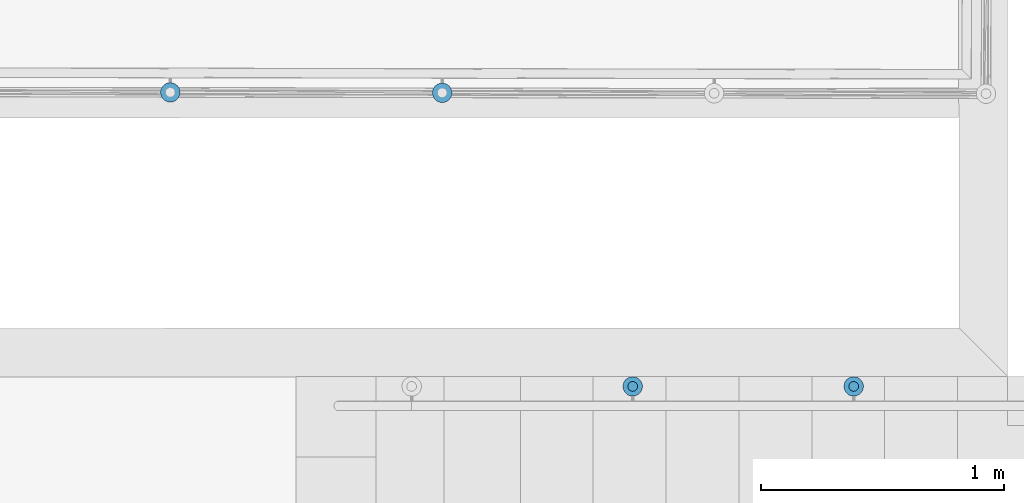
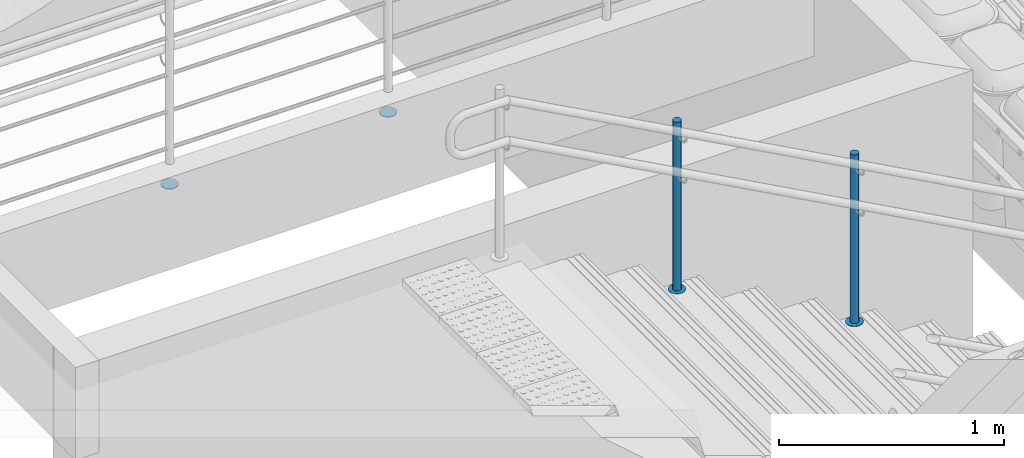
# One storey, part 108 of 237: 6 building element parts, 2 elements without a shape of their own.
"""IFC2X3 building model written with IfcOpenShell, lengths in millimetres."""

from ifc_helpers import new_model, entity, si_unit, converted_unit, derived_unit, money_unit, direction, frame, origin_with_axes, place, context, subcontext, project, spatial, faceted_brep, material, type_object, element, aggregate, save


model = new_model("IFC2X3")

# Units and contexts
model_context = context("Model", 3, precision=0.01, world=origin_with_axes(), true_north=direction((0.0, 1.0)))
body_context = subcontext(model_context, "Body", "Model", "MODEL_VIEW")
ifc_project = project(units=[si_unit("LENGTHUNIT", "METRE", prefix="MILLI"), si_unit("AREAUNIT", "SQUARE_METRE"), si_unit("VOLUMEUNIT", "CUBIC_METRE"), converted_unit("PLANEANGLEUNIT", "DEGREE", entity("IfcPlaneAngleMeasure", 0.0174532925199), si_unit("PLANEANGLEUNIT", "RADIAN"), dimensions=[0, 0, 0, 0, 0, 0, 0]), money_unit("USD"), converted_unit("TIMEUNIT", "Year", entity("IfcTimeMeasure", 31556926.0), si_unit("TIMEUNIT", "SECOND"), dimensions=[0, 0, 1, 0, 0, 0, 0]), si_unit("MASSUNIT", "GRAM", prefix="KILO"), si_unit("THERMODYNAMICTEMPERATUREUNIT", "DEGREE_CELSIUS"), si_unit("LUMINOUSINTENSITYUNIT", "LUMEN"), si_unit("ENERGYUNIT", "JOULE", prefix="MEGA"), derived_unit("THERMALCONDUCTANCEUNIT", [(si_unit("POWERUNIT", "WATT"), 1), (si_unit("LENGTHUNIT", "METRE"), -1), (si_unit("THERMODYNAMICTEMPERATUREUNIT", "KELVIN"), -1)]), derived_unit("SPECIFICHEATCAPACITYUNIT", [(si_unit("ENERGYUNIT", "JOULE"), 1), (si_unit("MASSUNIT", "GRAM", prefix="KILO"), -1), (si_unit("THERMODYNAMICTEMPERATUREUNIT", "KELVIN"), -1)]), derived_unit("MASSDENSITYUNIT", [(si_unit("MASSUNIT", "GRAM", prefix="KILO"), 1), (si_unit("VOLUMEUNIT", "CUBIC_METRE"), -1)])], contexts=[model_context])

# Site, building, storey
site_placement = place(None, origin_with_axes())
site = spatial("IfcSite", under=ifc_project, at=site_placement, Name="Local", CompositionType="ELEMENT")
building_placement = place(site_placement, origin_with_axes())
building = spatial("IfcBuilding", under=site, at=building_placement, Name="Construção", CompositionType="ELEMENT")
storey_placement = place(building_placement, origin_with_axes())
storey = spatial("IfcBuildingStorey", under=building, at=storey_placement, Name="Pavimento Térreo", CompositionType="ELEMENT", Elevation=0.0)

# Railing, building element parts
railing_type = type_object("IfcRailingType", Name="Tipo de Guarda-Corpo", PredefinedType="NOTDEFINED")
railing_1_placement = place(storey_placement, frame((70326.6870103, 28675.2458388, -1357.10819655), z_axis=(0.0, 0.0, 1.0), x_axis=(1.0, 0.0, 0.0)))
railing_1 = element("IfcRailing", 1, at=railing_1_placement, inside=storey, type_object=railing_type, Name="Guarda-Corpo - 004", PredefinedType="NOTDEFINED")
ifc_material_1 = material(Name="Alumínio")
building_element_part_1_placement = place(railing_1_placement, origin_with_axes())
building_element_part_1 = element("IfcBuildingElementPart", 2, at=building_element_part_1_placement, material=ifc_material_1, Name="Alumínio", context=body_context, shape_type="Brep", body=[
    faceted_brep([(-8065.08357574, -1847.38818847, 0.0), (-8065.68017434, -1840.44129993, 0.0), (-8065.68017434, -1840.44129993, 5.0), (-8065.08357574, -1847.38818847, 5.0), (-8065.70235535, -1854.33313643, 0.0), (-8067.51771186, -1861.06512508, 0.0), (-8070.47448659, -1867.37960633, 0.0), (-8074.48283943, -1873.08471789, 0.0), (-8079.42097861, -1878.00711282, 0.0), (-8085.13886126, -1881.99722664, 0.0), (-8091.46275243, -1884.93382176, 0.0), (-8098.20050387, -1886.72767122, 0.0), (-8105.14739241, -1887.32426982, 0.0), (-8112.09234037, -1886.70549022, 0.0), (-8118.82432901, -1884.8901337, 0.0), (-8125.13881027, -1881.93335898, 0.0), (-8130.84392183, -1877.92500614, 0.0), (-8135.76631676, -1872.98686696, 0.0), (-8139.75643058, -1867.2689843, 0.0), (-8142.6930257, -1860.94509314, 0.0), (-8144.48687516, -1854.2073417, 0.0), (-8145.08347376, -1847.26045315, 0.0), (-8144.46469416, -1840.31550519, 0.0), (-8142.64933764, -1833.58351655, 0.0), (-8139.69256292, -1827.26903529, 0.0), (-8135.68421008, -1821.56392373, 0.0), (-8130.7460709, -1816.64152881, 0.0), (-8125.02818824, -1812.65141499, 0.0), (-8118.70429708, -1809.71481987, 0.0), (-8111.96654564, -1807.9209704, 0.0), (-8105.01965709, -1807.3243718, 0.0), (-8098.07470913, -1807.94315141, 0.0), (-8091.34272049, -1809.75850792, 0.0), (-8085.02823923, -1812.71528265, 0.0), (-8079.32312767, -1816.72363549, 0.0), (-8074.40073275, -1821.66177467, 0.0), (-8070.41061893, -1827.37965732, 0.0), (-8067.47402381, -1833.70354849, 0.0), (-8067.47402381, -1833.70354849, 5.0), (-8070.41061893, -1827.37965732, 5.0), (-8074.40073275, -1821.66177467, 5.0), (-8079.32312767, -1816.72363549, 5.0), (-8085.02823923, -1812.71528265, 5.0), (-8091.34272049, -1809.75850792, 5.0), (-8098.07470913, -1807.94315141, 5.0), (-8105.01965709, -1807.3243718, 5.0), (-8111.96654564, -1807.9209704, 5.0), (-8118.70429708, -1809.71481987, 5.0), (-8125.02818824, -1812.65141499, 5.0), (-8130.7460709, -1816.64152881, 5.0), (-8135.68421008, -1821.56392373, 5.0), (-8139.69256292, -1827.26903529, 5.0), (-8142.64933764, -1833.58351655, 5.0), (-8144.46469416, -1840.31550519, 5.0), (-8145.08347376, -1847.26045315, 5.0), (-8144.48687516, -1854.2073417, 5.0), (-8142.6930257, -1860.94509314, 5.0), (-8139.75643058, -1867.2689843, 5.0), (-8135.76631676, -1872.98686696, 5.0), (-8130.84392183, -1877.92500614, 5.0), (-8125.13881027, -1881.93335898, 5.0), (-8118.82432901, -1884.8901337, 5.0), (-8112.09234037, -1886.70549022, 5.0), (-8105.14739241, -1887.32426982, 5.0), (-8098.20050387, -1886.72767122, 5.0), (-8091.46275243, -1884.93382176, 5.0), (-8085.13886126, -1881.99722664, 5.0), (-8079.42097861, -1878.00711282, 5.0), (-8074.48283943, -1873.08471789, 5.0), (-8070.47448659, -1867.37960633, 5.0), (-8067.51771186, -1861.06512508, 5.0), (-8065.70235535, -1854.33313643, 5.0)], [[[0, 1, 2, 3]], [[0, 4, 5, 6, 7, 8, 9, 10, 11, 12, 13, 14, 15, 16, 17, 18, 19, 20, 21, 22, 23, 24, 25, 26, 27, 28, 29, 30, 31, 32, 33, 34, 35, 36, 37, 1]], [[1, 37, 38, 2]], [[3, 2, 38, 39, 40, 41, 42, 43, 44, 45, 46, 47, 48, 49, 50, 51, 52, 53, 54, 55, 56, 57, 58, 59, 60, 61, 62, 63, 64, 65, 66, 67, 68, 69, 70, 71]], [[4, 0, 3, 71]], [[5, 4, 71, 70]], [[6, 5, 70, 69]], [[7, 6, 69, 68]], [[8, 7, 68, 67]], [[9, 8, 67, 66]], [[10, 9, 66, 65]], [[11, 10, 65, 64]], [[12, 11, 64, 63]], [[13, 12, 63, 62]], [[14, 13, 62, 61]], [[15, 14, 61, 60]], [[16, 15, 60, 59]], [[17, 16, 59, 58]], [[18, 17, 58, 57]], [[19, 18, 57, 56]], [[20, 19, 56, 55]], [[21, 20, 55, 54]], [[22, 21, 54, 53]], [[23, 22, 53, 52]], [[24, 23, 52, 51]], [[25, 24, 51, 50]], [[26, 25, 50, 49]], [[27, 26, 49, 48]], [[28, 27, 48, 47]], [[29, 28, 47, 46]], [[30, 29, 46, 45]], [[31, 30, 45, 44]], [[32, 31, 44, 43]], [[33, 32, 43, 42]], [[34, 33, 42, 41]], [[35, 34, 41, 40]], [[36, 35, 40, 39]], [[37, 36, 39, 38]]]),
])
building_element_part_2_placement = place(railing_1_placement, origin_with_axes())
building_element_part_2 = element("IfcBuildingElementPart", 3, at=building_element_part_2_placement, material=ifc_material_1, Name="Alumínio", context=body_context, shape_type="Brep", body=[
    faceted_brep([(-6945.83674292, -1849.17528265, 0.0), (-6946.43334153, -1842.2283941, 0.0), (-6946.43334153, -1842.2283941, 5.0), (-6945.83674292, -1849.17528265, 5.0), (-6946.45552253, -1856.12023061, 0.0), (-6948.27087904, -1862.85221925, 0.0), (-6951.22765377, -1869.16670051, 0.0), (-6955.23600661, -1874.87181207, 0.0), (-6960.17414579, -1879.794207, 0.0), (-6965.89202845, -1883.78432081, 0.0), (-6972.21591961, -1886.72091593, 0.0), (-6978.95367105, -1888.5147654, 0.0), (-6985.90055959, -1889.111364, 0.0), (-6992.84550755, -1888.49258439, 0.0), (-6999.5774962, -1886.67722788, 0.0), (-7005.89197746, -1883.72045315, 0.0), (-7011.59708901, -1879.71210032, 0.0), (-7016.51948394, -1874.77396114, 0.0), (-7020.50959776, -1869.05607848, 0.0), (-7023.44619288, -1862.73218732, 0.0), (-7025.24004234, -1855.99443588, 0.0), (-7025.83664095, -1849.04754733, 0.0), (-7025.21786134, -1842.10259937, 0.0), (-7023.40250483, -1835.37061073, 0.0), (-7020.4457301, -1829.05612947, 0.0), (-7016.43737726, -1823.35101791, 0.0), (-7011.49923808, -1818.42862298, 0.0), (-7005.78135542, -1814.43850917, 0.0), (-6999.45746426, -1811.50191405, 0.0), (-6992.71971282, -1809.70806458, 0.0), (-6985.77282428, -1809.11146598, 0.0), (-6978.82787632, -1809.73024559, 0.0), (-6972.09588767, -1811.5456021, 0.0), (-6965.78140641, -1814.50237683, 0.0), (-6960.07629486, -1818.51072967, 0.0), (-6955.15389993, -1823.44886884, 0.0), (-6951.16378611, -1829.1667515, 0.0), (-6948.22719099, -1835.49064267, 0.0), (-6948.22719099, -1835.49064267, 5.0), (-6951.16378611, -1829.1667515, 5.0), (-6955.15389993, -1823.44886884, 5.0), (-6960.07629486, -1818.51072967, 5.0), (-6965.78140641, -1814.50237683, 5.0), (-6972.09588767, -1811.5456021, 5.0), (-6978.82787632, -1809.73024559, 5.0), (-6985.77282428, -1809.11146598, 5.0), (-6992.71971282, -1809.70806458, 5.0), (-6999.45746426, -1811.50191405, 5.0), (-7005.78135542, -1814.43850917, 5.0), (-7011.49923808, -1818.42862298, 5.0), (-7016.43737726, -1823.35101791, 5.0), (-7020.4457301, -1829.05612947, 5.0), (-7023.40250483, -1835.37061073, 5.0), (-7025.21786134, -1842.10259937, 5.0), (-7025.83664095, -1849.04754733, 5.0), (-7025.24004234, -1855.99443588, 5.0), (-7023.44619288, -1862.73218732, 5.0), (-7020.50959776, -1869.05607848, 5.0), (-7016.51948394, -1874.77396114, 5.0), (-7011.59708901, -1879.71210032, 5.0), (-7005.89197746, -1883.72045315, 5.0), (-6999.5774962, -1886.67722788, 5.0), (-6992.84550755, -1888.49258439, 5.0), (-6985.90055959, -1889.111364, 5.0), (-6978.95367105, -1888.5147654, 5.0), (-6972.21591961, -1886.72091593, 5.0), (-6965.89202845, -1883.78432081, 5.0), (-6960.17414579, -1879.794207, 5.0), (-6955.23600661, -1874.87181207, 5.0), (-6951.22765377, -1869.16670051, 5.0), (-6948.27087904, -1862.85221925, 5.0), (-6946.45552253, -1856.12023061, 5.0)], [[[0, 1, 2, 3]], [[0, 4, 5, 6, 7, 8, 9, 10, 11, 12, 13, 14, 15, 16, 17, 18, 19, 20, 21, 22, 23, 24, 25, 26, 27, 28, 29, 30, 31, 32, 33, 34, 35, 36, 37, 1]], [[1, 37, 38, 2]], [[3, 2, 38, 39, 40, 41, 42, 43, 44, 45, 46, 47, 48, 49, 50, 51, 52, 53, 54, 55, 56, 57, 58, 59, 60, 61, 62, 63, 64, 65, 66, 67, 68, 69, 70, 71]], [[4, 0, 3, 71]], [[5, 4, 71, 70]], [[6, 5, 70, 69]], [[7, 6, 69, 68]], [[8, 7, 68, 67]], [[9, 8, 67, 66]], [[10, 9, 66, 65]], [[11, 10, 65, 64]], [[12, 11, 64, 63]], [[13, 12, 63, 62]], [[14, 13, 62, 61]], [[15, 14, 61, 60]], [[16, 15, 60, 59]], [[17, 16, 59, 58]], [[18, 17, 58, 57]], [[19, 18, 57, 56]], [[20, 19, 56, 55]], [[21, 20, 55, 54]], [[22, 21, 54, 53]], [[23, 22, 53, 52]], [[24, 23, 52, 51]], [[25, 24, 51, 50]], [[26, 25, 50, 49]], [[27, 26, 49, 48]], [[28, 27, 48, 47]], [[29, 28, 47, 46]], [[30, 29, 46, 45]], [[31, 30, 45, 44]], [[32, 31, 44, 43]], [[33, 32, 43, 42]], [[34, 33, 42, 41]], [[35, 34, 41, 40]], [[36, 35, 40, 39]], [[37, 36, 39, 38]]]),
])
aggregate(railing_1, [building_element_part_1, building_element_part_2])

railing_2_placement = place(storey_placement, frame((66896.327552, 25657.5940361, -3366.72358116), z_axis=(0.0, 0.0, 1.0), x_axis=(1.0, 0.0, 0.0)))
railing_2 = element("IfcRailing", 4, at=railing_2_placement, inside=storey, type_object=railing_type, Name="Guarda-Corpo - 002", PredefinedType="NOTDEFINED")
ifc_material_2 = material(Name="Aço - Inoxidável")
building_element_part_3_placement = place(railing_2_placement, origin_with_axes())
building_element_part_3 = element("IfcBuildingElementPart", 5, at=building_element_part_3_placement, material=ifc_material_2, Name="Aço - Inoxidável", context=body_context, shape_type="Brep", body=[
    faceted_brep([(-1857.99575007, -20.3038449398, 1017.69381447), (-1861.46871362, -20.0, 1017.69381447), (-1861.46871362, -20.0, 1932.69381447), (-1857.99575007, -20.3038449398, 1932.69381447), (-1864.94167717, -20.3038449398, 1017.69381447), (-1854.62831075, -21.2061475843, 1017.69381447), (-1851.46871362, -22.6794919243, 1017.69381447), (-1848.61296143, -24.6791111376, 1017.69381447), (-1846.14782476, -27.1442478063, 1017.69381447), (-1844.14820554, -30.0, 1017.69381447), (-1842.6748612, -33.1595971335, 1017.69381447), (-1841.77255856, -36.5270364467, 1017.69381447), (-1841.46871362, -40.0, 1017.69381447), (-1841.77255856, -43.4729635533, 1017.69381447), (-1842.6748612, -46.8404028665, 1017.69381447), (-1844.14820554, -50.0, 1017.69381447), (-1846.14782476, -52.8557521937, 1017.69381447), (-1848.61296143, -55.3208888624, 1017.69381447), (-1851.46871362, -57.3205080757, 1017.69381447), (-1854.62831075, -58.7938524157, 1017.69381447), (-1857.99575007, -59.6961550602, 1017.69381447), (-1861.46871362, -60.0, 1017.69381447), (-1864.94167717, -59.6961550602, 1017.69381447), (-1868.30911649, -58.7938524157, 1017.69381447), (-1871.46871362, -57.3205080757, 1017.69381447), (-1874.32446581, -55.3208888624, 1017.69381447), (-1876.78960248, -52.8557521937, 1017.69381447), (-1878.7892217, -50.0, 1017.69381447), (-1880.26256604, -46.8404028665, 1017.69381447), (-1881.16486868, -43.4729635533, 1017.69381447), (-1881.46871362, -40.0, 1017.69381447), (-1881.16486868, -36.5270364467, 1017.69381447), (-1880.26256604, -33.1595971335, 1017.69381447), (-1878.7892217, -30.0, 1017.69381447), (-1876.78960248, -27.1442478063, 1017.69381447), (-1874.32446581, -24.6791111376, 1017.69381447), (-1871.46871362, -22.6794919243, 1017.69381447), (-1868.30911649, -21.2061475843, 1017.69381447), (-1864.94167717, -20.3038449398, 1932.69381447), (-1841.77255856, -43.4729635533, 1932.69381447), (-1841.46871362, -40.0, 1932.69381447), (-1841.77255856, -36.5270364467, 1932.69381447), (-1842.6748612, -33.1595971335, 1932.69381447), (-1844.14820554, -30.0, 1932.69381447), (-1846.14782476, -27.1442478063, 1932.69381447), (-1848.61296143, -24.6791111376, 1932.69381447), (-1851.46871362, -22.6794919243, 1932.69381447), (-1854.62831075, -21.2061475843, 1932.69381447), (-1868.30911649, -21.2061475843, 1932.69381447), (-1871.46871362, -22.6794919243, 1932.69381447), (-1874.32446581, -24.6791111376, 1932.69381447), (-1876.78960248, -27.1442478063, 1932.69381447), (-1878.7892217, -30.0, 1932.69381447), (-1880.26256604, -33.1595971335, 1932.69381447), (-1881.16486868, -36.5270364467, 1932.69381447), (-1881.46871362, -40.0, 1932.69381447), (-1881.16486868, -43.4729635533, 1932.69381447), (-1880.26256604, -46.8404028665, 1932.69381447), (-1878.7892217, -50.0, 1932.69381447), (-1876.78960248, -52.8557521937, 1932.69381447), (-1874.32446581, -55.3208888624, 1932.69381447), (-1871.46871362, -57.3205080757, 1932.69381447), (-1868.30911649, -58.7938524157, 1932.69381447), (-1864.94167717, -59.6961550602, 1932.69381447), (-1861.46871362, -60.0, 1932.69381447), (-1857.99575007, -59.6961550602, 1932.69381447), (-1854.62831075, -58.7938524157, 1932.69381447), (-1851.46871362, -57.3205080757, 1932.69381447), (-1848.61296143, -55.3208888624, 1932.69381447), (-1846.14782476, -52.8557521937, 1932.69381447), (-1844.14820554, -50.0, 1932.69381447), (-1842.6748612, -46.8404028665, 1932.69381447)], [[[0, 1, 2, 3]], [[4, 1, 0, 5, 6, 7, 8, 9, 10, 11, 12, 13, 14, 15, 16, 17, 18, 19, 20, 21, 22, 23, 24, 25, 26, 27, 28, 29, 30, 31, 32, 33, 34, 35, 36, 37]], [[1, 4, 38, 2]], [[39, 40, 41, 42, 43, 44, 45, 46, 47, 3, 2, 38, 48, 49, 50, 51, 52, 53, 54, 55, 56, 57, 58, 59, 60, 61, 62, 63, 64, 65, 66, 67, 68, 69, 70, 71]], [[5, 0, 3, 47]], [[6, 5, 47, 46]], [[7, 6, 46, 45]], [[8, 7, 45, 44]], [[9, 8, 44, 43]], [[10, 9, 43, 42]], [[11, 10, 42, 41]], [[12, 11, 41, 40]], [[13, 12, 40, 39]], [[14, 13, 39, 71]], [[15, 14, 71, 70]], [[16, 15, 70, 69]], [[17, 16, 69, 68]], [[18, 17, 68, 67]], [[19, 18, 67, 66]], [[20, 19, 66, 65]], [[21, 20, 65, 64]], [[22, 21, 64, 63]], [[23, 22, 63, 62]], [[24, 23, 62, 61]], [[25, 24, 61, 60]], [[26, 25, 60, 59]], [[27, 26, 59, 58]], [[28, 27, 58, 57]], [[29, 28, 57, 56]], [[30, 29, 56, 55]], [[31, 30, 55, 54]], [[32, 31, 54, 53]], [[33, 32, 53, 52]], [[34, 33, 52, 51]], [[35, 34, 51, 50]], [[36, 35, 50, 49]], [[37, 36, 49, 48]], [[4, 37, 48, 38]]]),
])
building_element_part_4_placement = place(railing_2_placement, origin_with_axes())
building_element_part_4 = element("IfcBuildingElementPart", 6, at=building_element_part_4_placement, material=ifc_material_1, Name="Alumínio", context=body_context, shape_type="Brep", body=[
    faceted_brep([(-1901.46871362, -40.0, 1012.69381447), (-1900.86102374, -46.9459271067, 1012.69381447), (-1900.86102374, -46.9459271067, 1017.69381447), (-1901.46871362, -40.0, 1017.69381447), (-1900.86102374, -33.0540728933, 1012.69381447), (-1899.05641845, -26.319194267, 1012.69381447), (-1896.10972977, -20.0, 1012.69381447), (-1892.11049134, -14.2884956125, 1012.69381447), (-1887.18021801, -9.35822227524, 1012.69381447), (-1881.46871362, -5.35898384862, 1012.69381447), (-1875.14951935, -2.41229516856, 1012.69381447), (-1868.41464073, -0.607689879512, 1012.69381447), (-1861.46871362, 0.0, 1012.69381447), (-1854.52278651, -0.607689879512, 1012.69381447), (-1847.78790789, -2.41229516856, 1012.69381447), (-1841.46871362, -5.35898384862, 1012.69381447), (-1835.75720923, -9.35822227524, 1012.69381447), (-1830.8269359, -14.2884956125, 1012.69381447), (-1826.82769747, -20.0, 1012.69381447), (-1823.88100879, -26.319194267, 1012.69381447), (-1822.0764035, -33.0540728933, 1012.69381447), (-1821.46871362, -40.0, 1012.69381447), (-1822.0764035, -46.9459271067, 1012.69381447), (-1823.88100879, -53.680805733, 1012.69381447), (-1826.82769747, -60.0, 1012.69381447), (-1830.8269359, -65.7115043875, 1012.69381447), (-1835.75720923, -70.6417777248, 1012.69381447), (-1841.46871362, -74.6410161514, 1012.69381447), (-1847.78790789, -77.5877048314, 1012.69381447), (-1854.52278651, -79.3923101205, 1012.69381447), (-1861.46871362, -80.0, 1012.69381447), (-1868.41464073, -79.3923101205, 1012.69381447), (-1875.14951935, -77.5877048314, 1012.69381447), (-1881.46871362, -74.6410161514, 1012.69381447), (-1887.18021801, -70.6417777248, 1012.69381447), (-1892.11049134, -65.7115043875, 1012.69381447), (-1896.10972977, -60.0, 1012.69381447), (-1899.05641845, -53.680805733, 1012.69381447), (-1899.05641845, -53.680805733, 1017.69381447), (-1896.10972977, -60.0, 1017.69381447), (-1892.11049134, -65.7115043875, 1017.69381447), (-1887.18021801, -70.6417777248, 1017.69381447), (-1881.46871362, -74.6410161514, 1017.69381447), (-1875.14951935, -77.5877048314, 1017.69381447), (-1868.41464073, -79.3923101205, 1017.69381447), (-1861.46871362, -80.0, 1017.69381447), (-1854.52278651, -79.3923101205, 1017.69381447), (-1847.78790789, -77.5877048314, 1017.69381447), (-1841.46871362, -74.6410161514, 1017.69381447), (-1835.75720923, -70.6417777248, 1017.69381447), (-1830.8269359, -65.7115043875, 1017.69381447), (-1826.82769747, -60.0, 1017.69381447), (-1823.88100879, -53.680805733, 1017.69381447), (-1822.0764035, -46.9459271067, 1017.69381447), (-1821.46871362, -40.0, 1017.69381447), (-1822.0764035, -33.0540728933, 1017.69381447), (-1823.88100879, -26.319194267, 1017.69381447), (-1826.82769747, -20.0, 1017.69381447), (-1830.8269359, -14.2884956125, 1017.69381447), (-1835.75720923, -9.35822227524, 1017.69381447), (-1841.46871362, -5.35898384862, 1017.69381447), (-1847.78790789, -2.41229516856, 1017.69381447), (-1854.52278651, -0.607689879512, 1017.69381447), (-1861.46871362, 0.0, 1017.69381447), (-1868.41464073, -0.607689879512, 1017.69381447), (-1875.14951935, -2.41229516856, 1017.69381447), (-1881.46871362, -5.35898384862, 1017.69381447), (-1887.18021801, -9.35822227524, 1017.69381447), (-1892.11049134, -14.2884956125, 1017.69381447), (-1896.10972977, -20.0, 1017.69381447), (-1899.05641845, -26.319194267, 1017.69381447), (-1900.86102374, -33.0540728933, 1017.69381447)], [[[0, 1, 2, 3]], [[0, 4, 5, 6, 7, 8, 9, 10, 11, 12, 13, 14, 15, 16, 17, 18, 19, 20, 21, 22, 23, 24, 25, 26, 27, 28, 29, 30, 31, 32, 33, 34, 35, 36, 37, 1]], [[1, 37, 38, 2]], [[3, 2, 38, 39, 40, 41, 42, 43, 44, 45, 46, 47, 48, 49, 50, 51, 52, 53, 54, 55, 56, 57, 58, 59, 60, 61, 62, 63, 64, 65, 66, 67, 68, 69, 70, 71]], [[4, 0, 3, 71]], [[5, 4, 71, 70]], [[6, 5, 70, 69]], [[7, 6, 69, 68]], [[8, 7, 68, 67]], [[9, 8, 67, 66]], [[10, 9, 66, 65]], [[11, 10, 65, 64]], [[12, 11, 64, 63]], [[13, 12, 63, 62]], [[14, 13, 62, 61]], [[15, 14, 61, 60]], [[16, 15, 60, 59]], [[17, 16, 59, 58]], [[18, 17, 58, 57]], [[19, 18, 57, 56]], [[20, 19, 56, 55]], [[21, 20, 55, 54]], [[22, 21, 54, 53]], [[23, 22, 53, 52]], [[24, 23, 52, 51]], [[25, 24, 51, 50]], [[26, 25, 50, 49]], [[27, 26, 49, 48]], [[28, 27, 48, 47]], [[29, 28, 47, 46]], [[30, 29, 46, 45]], [[31, 30, 45, 44]], [[32, 31, 44, 43]], [[33, 32, 43, 42]], [[34, 33, 42, 41]], [[35, 34, 41, 40]], [[36, 35, 40, 39]], [[37, 36, 39, 38]]]),
])
building_element_part_5_placement = place(railing_2_placement, origin_with_axes())
building_element_part_5 = element("IfcBuildingElementPart", 7, at=building_element_part_5_placement, material=ifc_material_2, Name="Aço - Inoxidável", context=body_context, shape_type="Brep", body=[
    faceted_brep([(-2767.78350492, -20.3038449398, 1513.14905521), (-2771.25646847, -20.0, 1513.14905521), (-2771.25646847, -20.0, 2428.14905521), (-2767.78350492, -20.3038449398, 2428.14905521), (-2774.72943203, -20.3038449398, 1513.14905521), (-2764.41606561, -21.2061475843, 1513.14905521), (-2761.25646847, -22.6794919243, 1513.14905521), (-2758.40071628, -24.6791111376, 1513.14905521), (-2755.93557961, -27.1442478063, 1513.14905521), (-2753.9359604, -30.0, 1513.14905521), (-2752.46261606, -33.1595971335, 1513.14905521), (-2751.56031341, -36.5270364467, 1513.14905521), (-2751.25646847, -40.0, 1513.14905521), (-2751.56031341, -43.4729635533, 1513.14905521), (-2752.46261606, -46.8404028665, 1513.14905521), (-2753.9359604, -50.0, 1513.14905521), (-2755.93557961, -52.8557521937, 1513.14905521), (-2758.40071628, -55.3208888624, 1513.14905521), (-2761.25646847, -57.3205080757, 1513.14905521), (-2764.41606561, -58.7938524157, 1513.14905521), (-2767.78350492, -59.6961550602, 1513.14905521), (-2771.25646847, -60.0, 1513.14905521), (-2774.72943203, -59.6961550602, 1513.14905521), (-2778.09687134, -58.7938524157, 1513.14905521), (-2781.25646847, -57.3205080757, 1513.14905521), (-2784.11222067, -55.3208888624, 1513.14905521), (-2786.57735734, -52.8557521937, 1513.14905521), (-2788.57697655, -50.0, 1513.14905521), (-2790.05032089, -46.8404028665, 1513.14905521), (-2790.95262353, -43.4729635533, 1513.14905521), (-2791.25646847, -40.0, 1513.14905521), (-2790.95262353, -36.5270364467, 1513.14905521), (-2790.05032089, -33.1595971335, 1513.14905521), (-2788.57697655, -30.0, 1513.14905521), (-2786.57735734, -27.1442478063, 1513.14905521), (-2784.11222067, -24.6791111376, 1513.14905521), (-2781.25646847, -22.6794919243, 1513.14905521), (-2778.09687134, -21.2061475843, 1513.14905521), (-2774.72943203, -20.3038449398, 2428.14905521), (-2751.56031341, -43.4729635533, 2428.14905521), (-2751.25646847, -40.0, 2428.14905521), (-2751.56031341, -36.5270364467, 2428.14905521), (-2752.46261606, -33.1595971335, 2428.14905521), (-2753.9359604, -30.0, 2428.14905521), (-2755.93557961, -27.1442478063, 2428.14905521), (-2758.40071628, -24.6791111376, 2428.14905521), (-2761.25646847, -22.6794919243, 2428.14905521), (-2764.41606561, -21.2061475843, 2428.14905521), (-2778.09687134, -21.2061475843, 2428.14905521), (-2781.25646847, -22.6794919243, 2428.14905521), (-2784.11222067, -24.6791111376, 2428.14905521), (-2786.57735734, -27.1442478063, 2428.14905521), (-2788.57697655, -30.0, 2428.14905521), (-2790.05032089, -33.1595971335, 2428.14905521), (-2790.95262353, -36.5270364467, 2428.14905521), (-2791.25646847, -40.0, 2428.14905521), (-2790.95262353, -43.4729635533, 2428.14905521), (-2790.05032089, -46.8404028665, 2428.14905521), (-2788.57697655, -50.0, 2428.14905521), (-2786.57735734, -52.8557521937, 2428.14905521), (-2784.11222067, -55.3208888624, 2428.14905521), (-2781.25646847, -57.3205080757, 2428.14905521), (-2778.09687134, -58.7938524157, 2428.14905521), (-2774.72943203, -59.6961550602, 2428.14905521), (-2771.25646847, -60.0, 2428.14905521), (-2767.78350492, -59.6961550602, 2428.14905521), (-2764.41606561, -58.7938524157, 2428.14905521), (-2761.25646847, -57.3205080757, 2428.14905521), (-2758.40071628, -55.3208888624, 2428.14905521), (-2755.93557961, -52.8557521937, 2428.14905521), (-2753.9359604, -50.0, 2428.14905521), (-2752.46261606, -46.8404028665, 2428.14905521)], [[[0, 1, 2, 3]], [[4, 1, 0, 5, 6, 7, 8, 9, 10, 11, 12, 13, 14, 15, 16, 17, 18, 19, 20, 21, 22, 23, 24, 25, 26, 27, 28, 29, 30, 31, 32, 33, 34, 35, 36, 37]], [[1, 4, 38, 2]], [[39, 40, 41, 42, 43, 44, 45, 46, 47, 3, 2, 38, 48, 49, 50, 51, 52, 53, 54, 55, 56, 57, 58, 59, 60, 61, 62, 63, 64, 65, 66, 67, 68, 69, 70, 71]], [[5, 0, 3, 47]], [[6, 5, 47, 46]], [[7, 6, 46, 45]], [[8, 7, 45, 44]], [[9, 8, 44, 43]], [[10, 9, 43, 42]], [[11, 10, 42, 41]], [[12, 11, 41, 40]], [[13, 12, 40, 39]], [[14, 13, 39, 71]], [[15, 14, 71, 70]], [[16, 15, 70, 69]], [[17, 16, 69, 68]], [[18, 17, 68, 67]], [[19, 18, 67, 66]], [[20, 19, 66, 65]], [[21, 20, 65, 64]], [[22, 21, 64, 63]], [[23, 22, 63, 62]], [[24, 23, 62, 61]], [[25, 24, 61, 60]], [[26, 25, 60, 59]], [[27, 26, 59, 58]], [[28, 27, 58, 57]], [[29, 28, 57, 56]], [[30, 29, 56, 55]], [[31, 30, 55, 54]], [[32, 31, 54, 53]], [[33, 32, 53, 52]], [[34, 33, 52, 51]], [[35, 34, 51, 50]], [[36, 35, 50, 49]], [[37, 36, 49, 48]], [[4, 37, 48, 38]]]),
])
building_element_part_6_placement = place(railing_2_placement, origin_with_axes())
building_element_part_6 = element("IfcBuildingElementPart", 8, at=building_element_part_6_placement, material=ifc_material_1, Name="Alumínio", context=body_context, shape_type="Brep", body=[
    faceted_brep([(-2811.25646847, -40.0, 1508.14905521), (-2810.64877859, -46.9459271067, 1508.14905521), (-2810.64877859, -46.9459271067, 1513.14905521), (-2811.25646847, -40.0, 1513.14905521), (-2810.64877859, -33.0540728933, 1508.14905521), (-2808.8441733, -26.319194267, 1508.14905521), (-2805.89748462, -20.0, 1508.14905521), (-2801.8982462, -14.2884956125, 1508.14905521), (-2796.96797286, -9.35822227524, 1508.14905521), (-2791.25646847, -5.35898384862, 1508.14905521), (-2784.93727421, -2.41229516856, 1508.14905521), (-2778.20239558, -0.607689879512, 1508.14905521), (-2771.25646847, 0.0, 1508.14905521), (-2764.31054137, -0.607689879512, 1508.14905521), (-2757.57566274, -2.41229516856, 1508.14905521), (-2751.25646847, -5.35898384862, 1508.14905521), (-2745.54496409, -9.35822227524, 1508.14905521), (-2740.61469075, -14.2884956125, 1508.14905521), (-2736.61545232, -20.0, 1508.14905521), (-2733.66876364, -26.319194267, 1508.14905521), (-2731.86415835, -33.0540728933, 1508.14905521), (-2731.25646847, -40.0, 1508.14905521), (-2731.86415835, -46.9459271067, 1508.14905521), (-2733.66876364, -53.680805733, 1508.14905521), (-2736.61545232, -60.0, 1508.14905521), (-2740.61469075, -65.7115043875, 1508.14905521), (-2745.54496409, -70.6417777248, 1508.14905521), (-2751.25646847, -74.6410161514, 1508.14905521), (-2757.57566274, -77.5877048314, 1508.14905521), (-2764.31054137, -79.3923101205, 1508.14905521), (-2771.25646847, -80.0, 1508.14905521), (-2778.20239558, -79.3923101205, 1508.14905521), (-2784.93727421, -77.5877048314, 1508.14905521), (-2791.25646847, -74.6410161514, 1508.14905521), (-2796.96797286, -70.6417777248, 1508.14905521), (-2801.8982462, -65.7115043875, 1508.14905521), (-2805.89748462, -60.0, 1508.14905521), (-2808.8441733, -53.680805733, 1508.14905521), (-2808.8441733, -53.680805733, 1513.14905521), (-2805.89748462, -60.0, 1513.14905521), (-2801.8982462, -65.7115043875, 1513.14905521), (-2796.96797286, -70.6417777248, 1513.14905521), (-2791.25646847, -74.6410161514, 1513.14905521), (-2784.93727421, -77.5877048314, 1513.14905521), (-2778.20239558, -79.3923101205, 1513.14905521), (-2771.25646847, -80.0, 1513.14905521), (-2764.31054137, -79.3923101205, 1513.14905521), (-2757.57566274, -77.5877048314, 1513.14905521), (-2751.25646847, -74.6410161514, 1513.14905521), (-2745.54496409, -70.6417777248, 1513.14905521), (-2740.61469075, -65.7115043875, 1513.14905521), (-2736.61545232, -60.0, 1513.14905521), (-2733.66876364, -53.680805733, 1513.14905521), (-2731.86415835, -46.9459271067, 1513.14905521), (-2731.25646847, -40.0, 1513.14905521), (-2731.86415835, -33.0540728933, 1513.14905521), (-2733.66876364, -26.319194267, 1513.14905521), (-2736.61545232, -20.0, 1513.14905521), (-2740.61469075, -14.2884956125, 1513.14905521), (-2745.54496409, -9.35822227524, 1513.14905521), (-2751.25646847, -5.35898384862, 1513.14905521), (-2757.57566274, -2.41229516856, 1513.14905521), (-2764.31054137, -0.607689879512, 1513.14905521), (-2771.25646847, 0.0, 1513.14905521), (-2778.20239558, -0.607689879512, 1513.14905521), (-2784.93727421, -2.41229516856, 1513.14905521), (-2791.25646847, -5.35898384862, 1513.14905521), (-2796.96797286, -9.35822227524, 1513.14905521), (-2801.8982462, -14.2884956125, 1513.14905521), (-2805.89748462, -20.0, 1513.14905521), (-2808.8441733, -26.319194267, 1513.14905521), (-2810.64877859, -33.0540728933, 1513.14905521)], [[[0, 1, 2, 3]], [[0, 4, 5, 6, 7, 8, 9, 10, 11, 12, 13, 14, 15, 16, 17, 18, 19, 20, 21, 22, 23, 24, 25, 26, 27, 28, 29, 30, 31, 32, 33, 34, 35, 36, 37, 1]], [[1, 37, 38, 2]], [[3, 2, 38, 39, 40, 41, 42, 43, 44, 45, 46, 47, 48, 49, 50, 51, 52, 53, 54, 55, 56, 57, 58, 59, 60, 61, 62, 63, 64, 65, 66, 67, 68, 69, 70, 71]], [[4, 0, 3, 71]], [[5, 4, 71, 70]], [[6, 5, 70, 69]], [[7, 6, 69, 68]], [[8, 7, 68, 67]], [[9, 8, 67, 66]], [[10, 9, 66, 65]], [[11, 10, 65, 64]], [[12, 11, 64, 63]], [[13, 12, 63, 62]], [[14, 13, 62, 61]], [[15, 14, 61, 60]], [[16, 15, 60, 59]], [[17, 16, 59, 58]], [[18, 17, 58, 57]], [[19, 18, 57, 56]], [[20, 19, 56, 55]], [[21, 20, 55, 54]], [[22, 21, 54, 53]], [[23, 22, 53, 52]], [[24, 23, 52, 51]], [[25, 24, 51, 50]], [[26, 25, 50, 49]], [[27, 26, 49, 48]], [[28, 27, 48, 47]], [[29, 28, 47, 46]], [[30, 29, 46, 45]], [[31, 30, 45, 44]], [[32, 31, 44, 43]], [[33, 32, 43, 42]], [[34, 33, 42, 41]], [[35, 34, 41, 40]], [[36, 35, 40, 39]], [[37, 36, 39, 38]]]),
])
aggregate(railing_2, [building_element_part_3, building_element_part_4, building_element_part_5, building_element_part_6])

save(model, "model.ifc")
